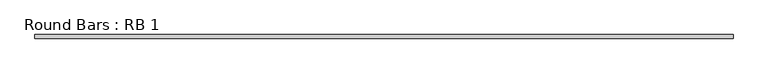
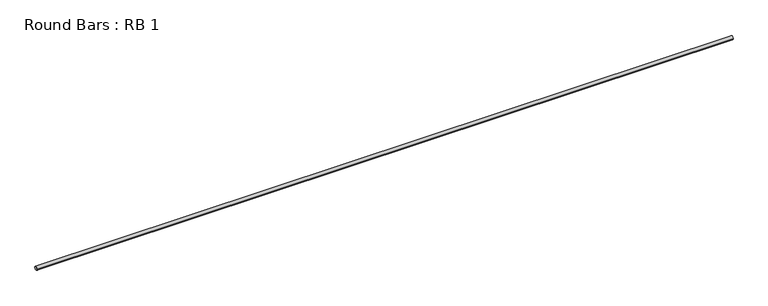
"""IFC4 building model written with IfcOpenShell, lengths in millimetres: beam geometry, Round Bars : RB 1."""

from ifc_helpers import new_model, si_unit, point, frame, origin, origin_2d, place, context, project, spatial, circle_curve, trimmed, segment, composite_curve, outline, extrude, source, transform, mapped, element, save


def round_bars_rb_1_904f9b2c(model_context):
    return source(origin(), model_context, "Body", "SweptSolid", [
        extrude(outline(composite_curve([segment(trimmed(circle_curve(origin_2d(), 12.7), [point((12.7, 0.0))], [point((-12.7, 0.0))], False, "CARTESIAN"), True, "CONTINUOUS"), segment(trimmed(circle_curve(origin_2d(), 12.7), [point((-12.7, 0.0))], [point((12.7, 0.0))], False, "CARTESIAN"), True, "CONTINUOUS")], self_intersect=False)), frame((-2411.0430606, 0.0, 0.0), z_axis=(1.0, 0.0, 0.0), x_axis=(0.0, 1.0, 0.0)), (0.0, 0.0, 1.0), 4822.0861211),
    ])


if __name__ == "__main__":
    model = new_model("IFC4")
    model_context = context("Model", 3, world=origin())
    ifc_project = project(units=[si_unit("LENGTHUNIT", "METRE", prefix="MILLI")], contexts=[model_context])
    site = spatial("IfcSite", under=ifc_project)
    building = spatial("IfcBuilding", under=site)
    placement = place(None, origin())
    round_bars_rb_1_shape = round_bars_rb_1_904f9b2c(model_context)
    element("IfcBeam", 1, ObjectType="Round Bars : RB 1", at=placement, inside=building, context=model_context, shape_type="MappedRepresentation", body=[
        mapped(round_bars_rb_1_shape, transform((0.0, 0.0, 0.0), x_axis=(1.0, 0.0, 0.0), y_axis=(0.0, 1.0, 0.0), z_axis=(0.0, 0.0, 1.0))),
    ])
    save(model, "model.ifc")
